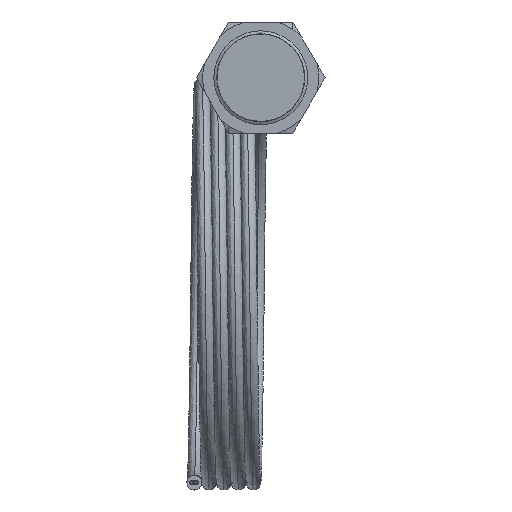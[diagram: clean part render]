
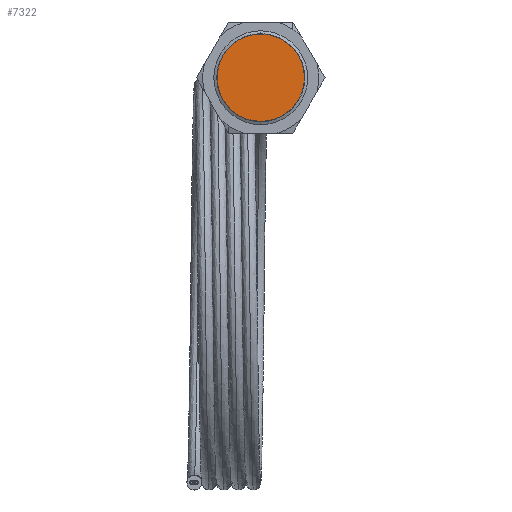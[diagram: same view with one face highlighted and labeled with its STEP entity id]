
A CAD part, left-side view. The second image highlights one B-rep face of the part: STEP entity #7322.
In plain terms, the highlighted planar face has unit normal (-1, 0, 0).
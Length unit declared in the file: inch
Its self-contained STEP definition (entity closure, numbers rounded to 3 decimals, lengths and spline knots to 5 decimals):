
#459 = CARTESIAN_POINT ( 'NONE',  ( 0., 0., 0.55 ) ) ;
#670 = CIRCLE ( 'NONE', #671, 0.55 ) ;
#671 = AXIS2_PLACEMENT_3D ( 'NONE', #672, #673, #674 ) ;
#672 = CARTESIAN_POINT ( 'NONE',  ( 0., 0., 0. ) ) ;
#673 = DIRECTION ( 'NONE',  ( 1., 0., 0. ) ) ;
#674 = DIRECTION ( 'NONE',  ( 0., 0., 1. ) ) ;
#1871 = CARTESIAN_POINT ( 'NONE',  ( 0., 0., -0.55 ) ) ;
#2555 = FACE_OUTER_BOUND ( 'NONE', #7285, .T. ) ;
#2556 = PLANE ( 'NONE',  #2557 ) ;
#2557 = AXIS2_PLACEMENT_3D ( 'NONE', #2558, #2559, #2560 ) ;
#2558 = CARTESIAN_POINT ( 'NONE',  ( 0., 0., 0. ) ) ;
#2559 = DIRECTION ( 'NONE',  ( 1., 0., 0. ) ) ;
#2560 = DIRECTION ( 'NONE',  ( 0., 0., -1. ) ) ;
#2653 = CIRCLE ( 'NONE', #2654, 0.55 ) ;
#2654 = AXIS2_PLACEMENT_3D ( 'NONE', #2655, #2656, #2671 ) ;
#2655 = CARTESIAN_POINT ( 'NONE',  ( 0., 0., 0. ) ) ;
#2656 = DIRECTION ( 'NONE',  ( 1., 0., 0. ) ) ;
#2671 = DIRECTION ( 'NONE',  ( 0., 0., 1. ) ) ;
#7087 = ORIENTED_EDGE ( 'NONE', *, *, #12767, .F. ) ;
#7184 = ORIENTED_EDGE ( 'NONE', *, *, #7379, .F. ) ;
#7285 = EDGE_LOOP ( 'NONE', ( #7184, #7087 ) ) ;
#7322 = ADVANCED_FACE ( 'NONE', ( #2555 ), #2556, .F. ) ;
#7379 = EDGE_CURVE ( 'NONE', #12527, #13887, #2653, .T. ) ;
#12527 = VERTEX_POINT ( 'NONE', #459 ) ;
#12767 = EDGE_CURVE ( 'NONE', #13887, #12527, #670, .T. ) ;
#13887 = VERTEX_POINT ( 'NONE', #1871 ) ;
